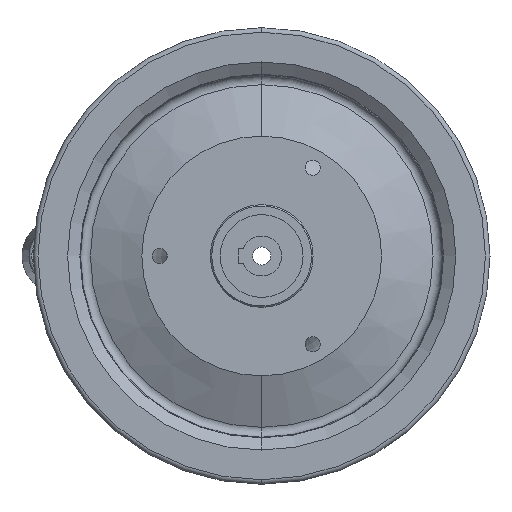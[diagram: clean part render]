
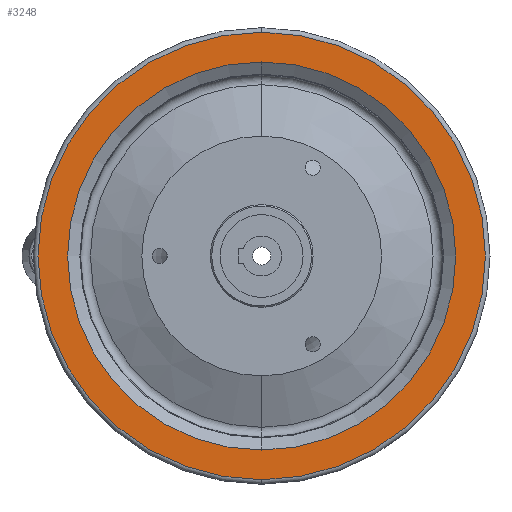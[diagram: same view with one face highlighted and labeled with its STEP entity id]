
A CAD part, left-side view. The second image highlights one B-rep face of the part: STEP entity #3248.
In plain terms, the highlighted planar face has unit normal (-1, 0, 0).
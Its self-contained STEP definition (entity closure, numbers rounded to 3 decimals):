
#99 = CARTESIAN_POINT ( 'NONE',  ( 48., 0., 78.4 ) ) ;
#155 = DIRECTION ( 'NONE',  ( 1., 0., 0. ) ) ;
#299 = DIRECTION ( 'NONE',  ( 0., 0., 1. ) ) ;
#300 = CARTESIAN_POINT ( 'NONE',  ( 48., 0., -78.4 ) ) ;
#362 = EDGE_LOOP ( 'NONE', ( #4122, #1278 ) ) ;
#412 = EDGE_CURVE ( 'NONE', #5149, #2773, #1728, .T. ) ;
#505 = CIRCLE ( 'NONE', #1515, 68.008 ) ;
#514 = CIRCLE ( 'NONE', #3102, 78.4 ) ;
#596 = VERTEX_POINT ( 'NONE', #99 ) ;
#624 = CARTESIAN_POINT ( 'NONE',  ( 48., 0., -68.008 ) ) ;
#682 = AXIS2_PLACEMENT_3D ( 'NONE', #2277, #3858, #299 ) ;
#763 = DIRECTION ( 'NONE',  ( -1., 0., 0. ) ) ;
#771 = DIRECTION ( 'NONE',  ( -1., 0., 0. ) ) ;
#1135 = DIRECTION ( 'NONE',  ( 0., 0., 1. ) ) ;
#1228 = CARTESIAN_POINT ( 'NONE',  ( 48., 0., 0. ) ) ;
#1278 = ORIENTED_EDGE ( 'NONE', *, *, #2492, .F. ) ;
#1460 = CARTESIAN_POINT ( 'NONE',  ( 48., 78.4, 0. ) ) ;
#1515 = AXIS2_PLACEMENT_3D ( 'NONE', #4544, #771, #1135 ) ;
#1577 = VERTEX_POINT ( 'NONE', #300 ) ;
#1728 = CIRCLE ( 'NONE', #1810, 68.008 ) ;
#1810 = AXIS2_PLACEMENT_3D ( 'NONE', #3793, #4606, #5054 ) ;
#1951 = EDGE_LOOP ( 'NONE', ( #2686, #2546 ) ) ;
#1997 = CIRCLE ( 'NONE', #682, 78.4 ) ;
#2045 = CARTESIAN_POINT ( 'NONE',  ( 48., 0., 68.008 ) ) ;
#2207 = FACE_BOUND ( 'NONE', #362, .T. ) ;
#2277 = CARTESIAN_POINT ( 'NONE',  ( 48., 0., 0. ) ) ;
#2492 = EDGE_CURVE ( 'NONE', #2773, #5149, #505, .T. ) ;
#2546 = ORIENTED_EDGE ( 'NONE', *, *, #2875, .T. ) ;
#2583 = EDGE_CURVE ( 'NONE', #596, #1577, #1997, .T. ) ;
#2686 = ORIENTED_EDGE ( 'NONE', *, *, #2583, .T. ) ;
#2773 = VERTEX_POINT ( 'NONE', #624 ) ;
#2875 = EDGE_CURVE ( 'NONE', #1577, #596, #514, .T. ) ;
#2975 = DIRECTION ( 'NONE',  ( 0., 0., -1. ) ) ;
#3102 = AXIS2_PLACEMENT_3D ( 'NONE', #1228, #763, #3183 ) ;
#3183 = DIRECTION ( 'NONE',  ( 0., 0., 1. ) ) ;
#3248 = ADVANCED_FACE ( 'PLANAR_4', ( #2207, #4136 ), #4239, .F. ) ;
#3793 = CARTESIAN_POINT ( 'NONE',  ( 48., 0., 0. ) ) ;
#3858 = DIRECTION ( 'NONE',  ( -1., 0., 0. ) ) ;
#4122 = ORIENTED_EDGE ( 'NONE', *, *, #412, .F. ) ;
#4136 = FACE_OUTER_BOUND ( 'NONE', #1951, .T. ) ;
#4239 = PLANE ( 'NONE',  #4258 ) ;
#4258 = AXIS2_PLACEMENT_3D ( 'NONE', #1460, #155, #2975 ) ;
#4544 = CARTESIAN_POINT ( 'NONE',  ( 48., 0., 0. ) ) ;
#4606 = DIRECTION ( 'NONE',  ( -1., 0., 0. ) ) ;
#5054 = DIRECTION ( 'NONE',  ( 0., 0., 1. ) ) ;
#5149 = VERTEX_POINT ( 'NONE', #2045 ) ;
